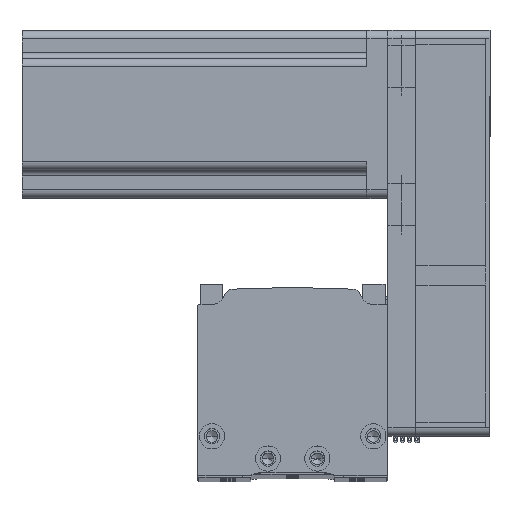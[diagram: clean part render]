
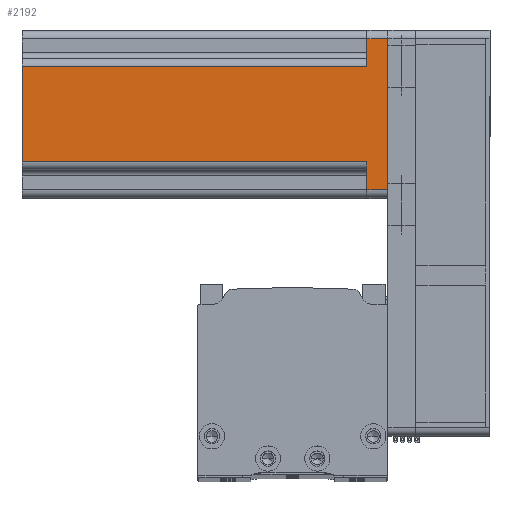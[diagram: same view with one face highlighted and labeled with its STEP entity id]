
A CAD part, top view. The second image highlights one B-rep face of the part: STEP entity #2192.
In plain terms, the highlighted planar face has unit normal (0, 0, 1) as drawn and (0, -1, 0) by its records, which use the part's own axes.
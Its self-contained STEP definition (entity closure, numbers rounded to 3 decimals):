
#928 = VECTOR ( 'NONE', #27742, 1000. ) ;
#1344 = VERTEX_POINT ( 'NONE', #48605 ) ;
#1833 = VECTOR ( 'NONE', #30369, 1000. ) ;
#2192 = ADVANCED_FACE ( 'NONE', ( #25482 ), #25780, .F. ) ;
#3742 = CARTESIAN_POINT ( 'NONE',  ( -17., -30., 130.7 ) ) ;
#3862 = ORIENTED_EDGE ( 'NONE', *, *, #21231, .F. ) ;
#4085 = VECTOR ( 'NONE', #33707, 1000. ) ;
#4548 = EDGE_CURVE ( 'NONE', #39660, #11162, #33769, .T. ) ;
#5344 = LINE ( 'NONE', #9872, #4085 ) ;
#7786 = VECTOR ( 'NONE', #34022, 1000. ) ;
#9230 = CARTESIAN_POINT ( 'NONE',  ( -27., -30., 130.7 ) ) ;
#9872 = CARTESIAN_POINT ( 'NONE',  ( 30., -30., 0. ) ) ;
#11162 = VERTEX_POINT ( 'NONE', #41361 ) ;
#12619 = VERTEX_POINT ( 'NONE', #38380 ) ;
#12633 = CARTESIAN_POINT ( 'NONE',  ( -27., -30., 0. ) ) ;
#13110 = ORIENTED_EDGE ( 'NONE', *, *, #15725, .T. ) ;
#13918 = LINE ( 'NONE', #30675, #23318 ) ;
#15642 = LINE ( 'NONE', #9230, #40528 ) ;
#15725 = EDGE_CURVE ( 'NONE', #43443, #45459, #50169, .T. ) ;
#15775 = CARTESIAN_POINT ( 'NONE',  ( -17., -30., 130.7 ) ) ;
#17824 = ORIENTED_EDGE ( 'NONE', *, *, #39417, .T. ) ;
#18291 = LINE ( 'NONE', #25425, #48700 ) ;
#19679 = VECTOR ( 'NONE', #42647, 1000. ) ;
#20900 = CARTESIAN_POINT ( 'NONE',  ( 27., -30., 7.5 ) ) ;
#21171 = AXIS2_PLACEMENT_3D ( 'NONE', #24354, #24400, #24232 ) ;
#21231 = EDGE_CURVE ( 'NONE', #1344, #25153, #13918, .T. ) ;
#21610 = EDGE_CURVE ( 'NONE', #12619, #11162, #18291, .T. ) ;
#23318 = VECTOR ( 'NONE', #42625, 1000. ) ;
#23811 = ORIENTED_EDGE ( 'NONE', *, *, #47850, .T. ) ;
#23915 = CARTESIAN_POINT ( 'NONE',  ( 30., -30., 130.7 ) ) ;
#24232 = DIRECTION ( 'NONE',  ( -1., 0., 0. ) ) ;
#24354 = CARTESIAN_POINT ( 'NONE',  ( 30., -30., 130.7 ) ) ;
#24400 = DIRECTION ( 'NONE',  ( 0., 1., 0. ) ) ;
#25153 = VERTEX_POINT ( 'NONE', #45069 ) ;
#25425 = CARTESIAN_POINT ( 'NONE',  ( 17., -30., 130.7 ) ) ;
#25482 = FACE_OUTER_BOUND ( 'NONE', #50040, .T. ) ;
#25780 = PLANE ( 'NONE',  #21171 ) ;
#26323 = ORIENTED_EDGE ( 'NONE', *, *, #21610, .T. ) ;
#27348 = LINE ( 'NONE', #3742, #928 ) ;
#27742 = DIRECTION ( 'NONE',  ( 0., 0., -1. ) ) ;
#29419 = DIRECTION ( 'NONE',  ( 0., 0., 1. ) ) ;
#30060 = CARTESIAN_POINT ( 'NONE',  ( 27., -30., 130.7 ) ) ;
#30140 = EDGE_CURVE ( 'NONE', #39660, #25153, #27348, .T. ) ;
#30369 = DIRECTION ( 'NONE',  ( 1., 0., 0. ) ) ;
#30675 = CARTESIAN_POINT ( 'NONE',  ( -20., -30., 7.5 ) ) ;
#31389 = ORIENTED_EDGE ( 'NONE', *, *, #4548, .F. ) ;
#33089 = DIRECTION ( 'NONE',  ( 0., 0., -1. ) ) ;
#33707 = DIRECTION ( 'NONE',  ( 1., 0., 0. ) ) ;
#33769 = LINE ( 'NONE', #23915, #1833 ) ;
#33804 = CARTESIAN_POINT ( 'NONE',  ( 27., -30., 0. ) ) ;
#34022 = DIRECTION ( 'NONE',  ( 0., 0., 1. ) ) ;
#38380 = CARTESIAN_POINT ( 'NONE',  ( 17., -30., 7.5 ) ) ;
#39417 = EDGE_CURVE ( 'NONE', #43857, #43443, #5344, .T. ) ;
#39660 = VERTEX_POINT ( 'NONE', #15775 ) ;
#40528 = VECTOR ( 'NONE', #33089, 1000. ) ;
#41361 = CARTESIAN_POINT ( 'NONE',  ( 17., -30., 130.7 ) ) ;
#42625 = DIRECTION ( 'NONE',  ( 1., 0., 0. ) ) ;
#42647 = DIRECTION ( 'NONE',  ( -1., 0., 0. ) ) ;
#43443 = VERTEX_POINT ( 'NONE', #33804 ) ;
#43857 = VERTEX_POINT ( 'NONE', #12633 ) ;
#45069 = CARTESIAN_POINT ( 'NONE',  ( -17., -30., 7.5 ) ) ;
#45459 = VERTEX_POINT ( 'NONE', #20900 ) ;
#46121 = CARTESIAN_POINT ( 'NONE',  ( 20., -30., 7.5 ) ) ;
#46459 = EDGE_CURVE ( 'NONE', #45459, #12619, #51292, .T. ) ;
#47850 = EDGE_CURVE ( 'NONE', #1344, #43857, #15642, .T. ) ;
#48605 = CARTESIAN_POINT ( 'NONE',  ( -27., -30., 7.5 ) ) ;
#48700 = VECTOR ( 'NONE', #29419, 1000. ) ;
#50040 = EDGE_LOOP ( 'NONE', ( #31389, #50520, #3862, #23811, #17824, #13110, #50897, #26323 ) ) ;
#50169 = LINE ( 'NONE', #30060, #7786 ) ;
#50520 = ORIENTED_EDGE ( 'NONE', *, *, #30140, .T. ) ;
#50897 = ORIENTED_EDGE ( 'NONE', *, *, #46459, .T. ) ;
#51292 = LINE ( 'NONE', #46121, #19679 ) ;
